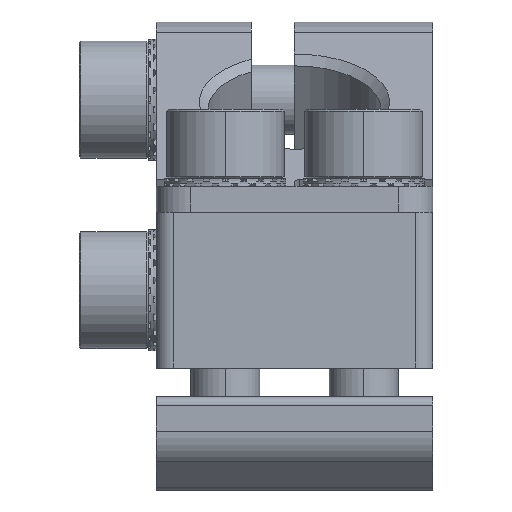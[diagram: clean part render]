
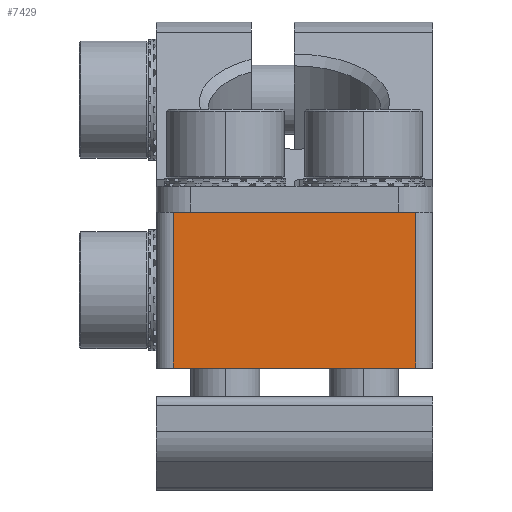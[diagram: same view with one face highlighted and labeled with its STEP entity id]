
A CAD part, left-side view. The second image highlights one B-rep face of the part: STEP entity #7429.
In plain terms, the highlighted planar face has unit normal (-1, 0, 0).
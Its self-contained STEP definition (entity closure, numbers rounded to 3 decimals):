
#52 = EDGE_CURVE ( 'NONE', #8218, #3522, #667, .T. ) ;
#330 = VERTEX_POINT ( 'NONE', #11006 ) ;
#429 = VERTEX_POINT ( 'NONE', #1858 ) ;
#667 = LINE ( 'NONE', #9298, #7681 ) ;
#753 = DIRECTION ( 'NONE',  ( 0., 0., 1. ) ) ;
#1020 = CARTESIAN_POINT ( 'NONE',  ( -43.037, 16.565, 9.499 ) ) ;
#1643 = DIRECTION ( 'NONE',  ( 0., -1., 0. ) ) ;
#1858 = CARTESIAN_POINT ( 'NONE',  ( -43.037, 2.565, 0.499 ) ) ;
#3004 = LINE ( 'NONE', #3724, #10013 ) ;
#3522 = VERTEX_POINT ( 'NONE', #1020 ) ;
#3724 = CARTESIAN_POINT ( 'NONE',  ( -43.037, 9.565, 0.499 ) ) ;
#4140 = EDGE_CURVE ( 'NONE', #3522, #330, #11506, .T. ) ;
#4396 = CARTESIAN_POINT ( 'NONE',  ( -43.037, 2.565, 4.999 ) ) ;
#4652 = DIRECTION ( 'NONE',  ( 0., -1., 0. ) ) ;
#5021 = CARTESIAN_POINT ( 'NONE',  ( -43.037, 2.565, 9.499 ) ) ;
#5134 = ORIENTED_EDGE ( 'NONE', *, *, #5781, .T. ) ;
#5338 = CARTESIAN_POINT ( 'NONE',  ( -43.037, 9.565, 9.499 ) ) ;
#5781 = EDGE_CURVE ( 'NONE', #8218, #429, #3004, .T. ) ;
#5979 = DIRECTION ( 'NONE',  ( 0., 0., -1. ) ) ;
#6912 = EDGE_CURVE ( 'NONE', #429, #330, #9918, .T. ) ;
#7429 = ADVANCED_FACE ( 'NONE', ( #7465 ), #10547, .F. ) ;
#7465 = FACE_OUTER_BOUND ( 'NONE', #11795, .T. ) ;
#7477 = VECTOR ( 'NONE', #753, 1000. ) ;
#7681 = VECTOR ( 'NONE', #9234, 1000. ) ;
#8218 = VERTEX_POINT ( 'NONE', #11256 ) ;
#8786 = AXIS2_PLACEMENT_3D ( 'NONE', #5021, #11470, #5979 ) ;
#9030 = VECTOR ( 'NONE', #1643, 1000. ) ;
#9234 = DIRECTION ( 'NONE',  ( 0., 0., 1. ) ) ;
#9298 = CARTESIAN_POINT ( 'NONE',  ( -43.037, 16.565, 4.999 ) ) ;
#9433 = ORIENTED_EDGE ( 'NONE', *, *, #4140, .F. ) ;
#9918 = LINE ( 'NONE', #4396, #7477 ) ;
#10013 = VECTOR ( 'NONE', #4652, 1000. ) ;
#10039 = ORIENTED_EDGE ( 'NONE', *, *, #6912, .T. ) ;
#10300 = ORIENTED_EDGE ( 'NONE', *, *, #52, .F. ) ;
#10547 = PLANE ( 'NONE',  #8786 ) ;
#11006 = CARTESIAN_POINT ( 'NONE',  ( -43.037, 2.565, 9.499 ) ) ;
#11256 = CARTESIAN_POINT ( 'NONE',  ( -43.037, 16.565, 0.499 ) ) ;
#11470 = DIRECTION ( 'NONE',  ( 1., 0., 0. ) ) ;
#11506 = LINE ( 'NONE', #5338, #9030 ) ;
#11795 = EDGE_LOOP ( 'NONE', ( #9433, #10300, #5134, #10039 ) ) ;
